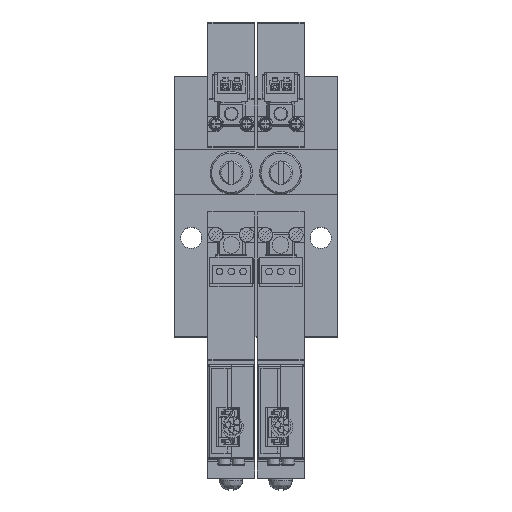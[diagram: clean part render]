
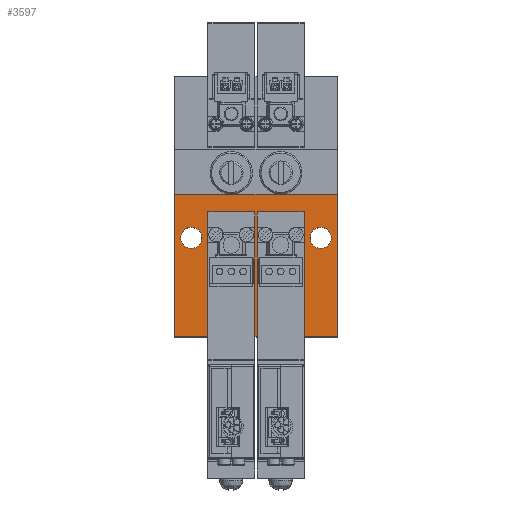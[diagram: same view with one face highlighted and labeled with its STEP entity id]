
A CAD part, top view. The second image highlights one B-rep face of the part: STEP entity #3597.
In plain terms, the highlighted planar face has unit normal (0, 0, 1).
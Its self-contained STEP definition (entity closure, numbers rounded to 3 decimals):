
#3597=ADVANCED_FACE('',(#6160,#6161,#6162),#6163,.F.);
#6160=FACE_BOUND('',#11398,.T.);
#6161=FACE_BOUND('',#11399,.T.);
#6162=FACE_OUTER_BOUND('',#11400,.T.);
#6163=PLANE('',#11401);
#11398=EDGE_LOOP('',(#17373));
#11399=EDGE_LOOP('',(#17374));
#11400=EDGE_LOOP('',(#17375,#17376,#17377,#17378));
#11401=AXIS2_PLACEMENT_3D('',#17379,#17380,#17381);
#17373=ORIENTED_EDGE('',*,*,#37495,.F.);
#17374=ORIENTED_EDGE('',*,*,#37496,.F.);
#17375=ORIENTED_EDGE('',*,*,#37497,.F.);
#17376=ORIENTED_EDGE('',*,*,#37498,.F.);
#17377=ORIENTED_EDGE('',*,*,#37499,.T.);
#17378=ORIENTED_EDGE('',*,*,#37493,.T.);
#17379=CARTESIAN_POINT('',(-34.5,30.3,14.8));
#17380=DIRECTION('',(0.0,0.0,-1.0));
#17381=DIRECTION('',(1.0,0.0,0.0));
#37493=EDGE_CURVE('',#43990,#43988,#43991,.T.);
#37495=EDGE_CURVE('',#43993,#43993,#43994,.T.);
#37496=EDGE_CURVE('',#43995,#43995,#43996,.T.);
#37497=EDGE_CURVE('',#43997,#43988,#43998,.T.);
#37498=EDGE_CURVE('',#43999,#43997,#44000,.T.);
#37499=EDGE_CURVE('',#43999,#43990,#44001,.T.);
#43988=VERTEX_POINT('',#54890);
#43990=VERTEX_POINT('',#54893);
#43991=LINE('',#54894,#54895);
#43993=VERTEX_POINT('',#54898);
#43994=CIRCLE('',#54899,2.25);
#43995=VERTEX_POINT('',#54900);
#43996=CIRCLE('',#54901,2.25);
#43997=VERTEX_POINT('',#54902);
#43998=LINE('',#54903,#54904);
#43999=VERTEX_POINT('',#54905);
#44000=LINE('',#54906,#54907);
#44001=LINE('',#54908,#54909);
#54890=CARTESIAN_POINT('',(0.0,0.,14.8));
#54893=CARTESIAN_POINT('',(-34.5,0.,14.8));
#54894=CARTESIAN_POINT('',(-34.5,0.,14.8));
#54895=VECTOR('',#72154,1.0);
#54898=CARTESIAN_POINT('',(-28.75,21.0,14.8));
#54899=AXIS2_PLACEMENT_3D('',#72156,#72157,#72158);
#54900=CARTESIAN_POINT('',(-1.25,21.0,14.8));
#54901=AXIS2_PLACEMENT_3D('',#72159,#72160,#72161);
#54902=CARTESIAN_POINT('',(0.0,30.3,14.8));
#54903=CARTESIAN_POINT('',(0.0,30.3,14.8));
#54904=VECTOR('',#72162,1.0);
#54905=CARTESIAN_POINT('',(-34.5,30.3,14.8));
#54906=CARTESIAN_POINT('',(-34.5,30.3,14.8));
#54907=VECTOR('',#72163,1.0);
#54908=CARTESIAN_POINT('',(-34.5,30.3,14.8));
#54909=VECTOR('',#72164,1.0);
#72154=DIRECTION('',(1.0,0.0,0.0));
#72156=CARTESIAN_POINT('',(-31.0,21.0,14.8));
#72157=DIRECTION('',(0.0,0.0,1.0));
#72158=DIRECTION('',(1.0,0.0,0.0));
#72159=CARTESIAN_POINT('',(-3.5,21.0,14.8));
#72160=DIRECTION('',(0.0,0.0,1.0));
#72161=DIRECTION('',(1.0,0.0,0.0));
#72162=DIRECTION('',(0.0,-1.0,0.0));
#72163=DIRECTION('',(1.0,0.0,0.0));
#72164=DIRECTION('',(0.0,-1.0,0.0));
